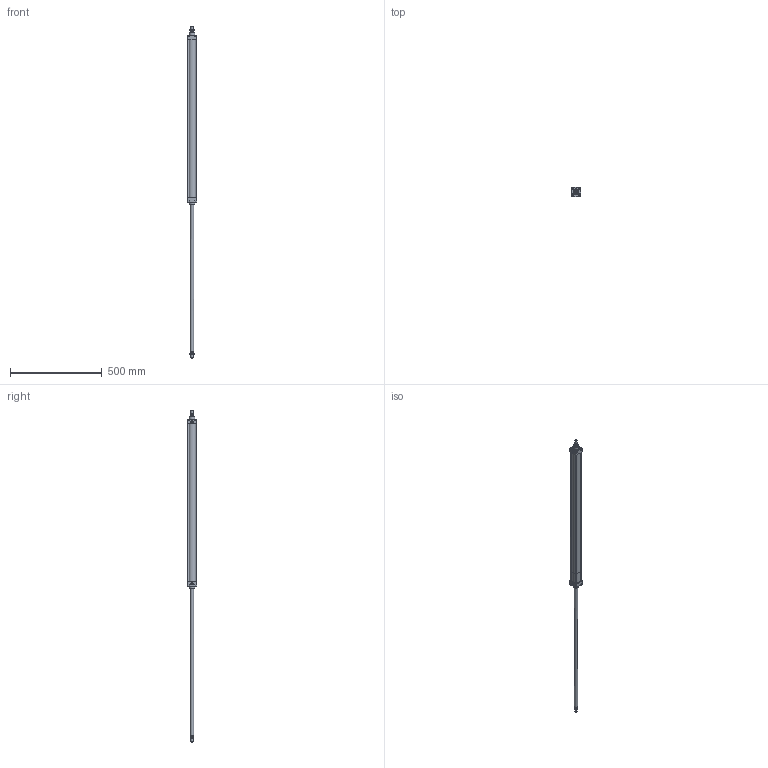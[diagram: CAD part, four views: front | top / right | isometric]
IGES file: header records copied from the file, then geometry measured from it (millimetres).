
Global section: file name: 130#_040_0800_02A; native system: Autodesk Inventor 2014; preprocessor: unknown; author: A. Manieri; date: 20161123.143834; units: millimetre
Bounding box: 52 x 52 x 1814 mm (x, y, z)
Volume: 1022647.7 mm3; surface area: 439855.1 mm2
Topology: 10 solids, 10 shells, 187 faces, 467 edges, 314 vertices
Faces by surface type: bspline 187
